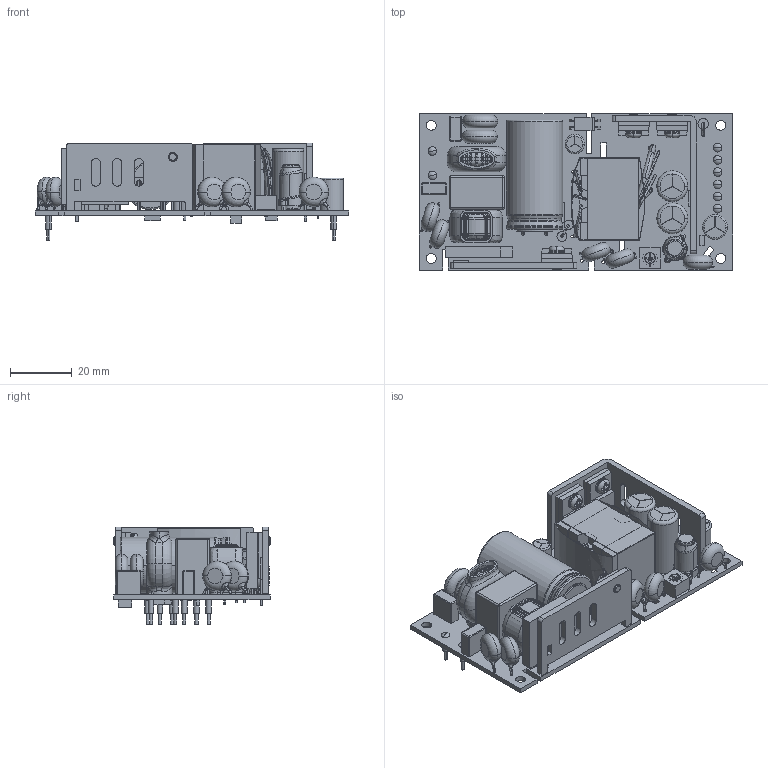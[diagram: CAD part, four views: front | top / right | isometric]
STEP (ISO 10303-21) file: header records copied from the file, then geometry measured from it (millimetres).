
FILE_DESCRIPTION (( 'STEP AP203' ), '1' );
FILE_NAME ('CFM80SXXX-P SPEC-1130205.STEP', '2024-07-23T07:46:52', ( 'cincon' ), ( '' ), 'SwSTEP 2.0', 'SolidWorks 2020', '' );
FILE_SCHEMA (( 'CONFIG_CONTROL_DESIGN' ));
Length unit declared in the file: millimetre
Products named in the file (1): CFM80SXXX-P SPEC-1130205
Bounding box: 101.6 x 50.92 x 31.8 mm (x, y, z)
Volume: 49447 mm3; surface area: 41019.2 mm2
Topology: 2 solids, 3 shells, 2224 faces, 6233 edges, 3992 vertices
Faces by surface type: plane 680, bspline 588, cylinder 556, torus 313, cone 59, sphere 28
Entity records: 98313 total; most frequent: CARTESIAN_POINT 45258, ORIENTED_EDGE 12418, DIRECTION 9996, EDGE_CURVE 6209, VERTEX_POINT 3992, AXIS2_PLACEMENT_3D 3840, EDGE_LOOP 2485, LINE 2316
